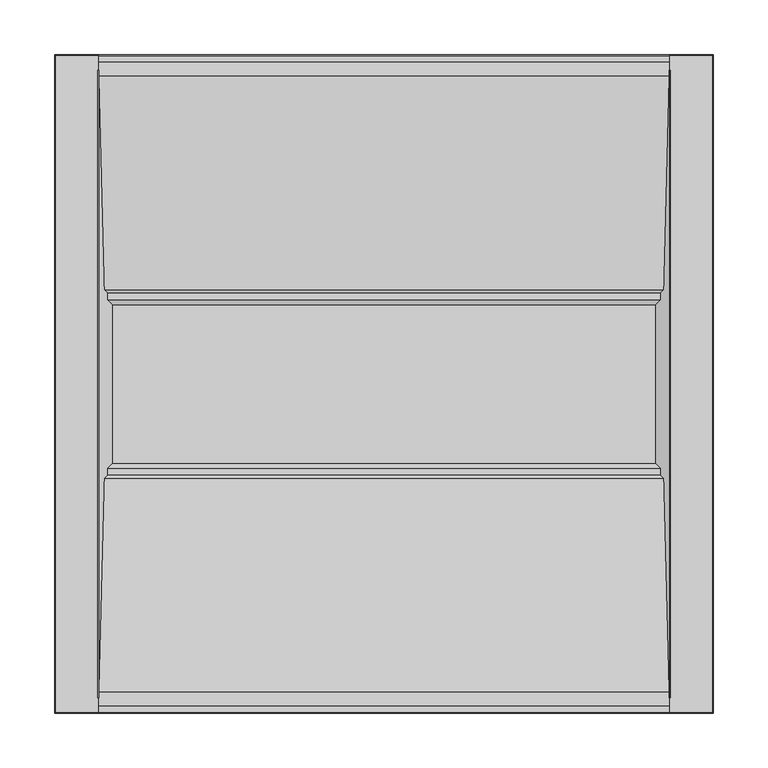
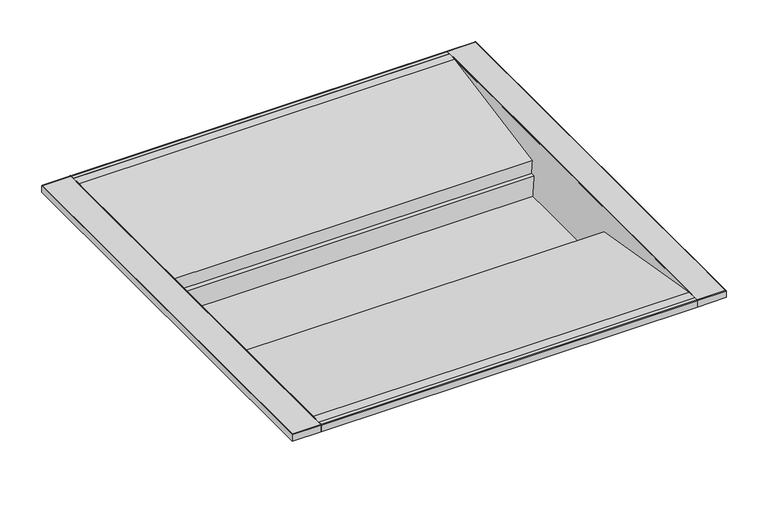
"""IFC4 building model written with IfcOpenShell, lengths in millimetres: light fixture geometry."""

from ifc_helpers import new_model, si_unit, frame, origin, place, context, project, spatial, circle_curve, ellipse_curve, faceted_brep, source, transform, mapped, element, save
from ifc_brep_helpers import plane_surface, cylinder_surface, advanced_brep


def light_fixture_8b8c7958(model_context):
    return source(origin(), model_context, "Body", "SolidModel", [
        advanced_brep(
        [(261.0, 298.6700005, -0.79375), (261.0, 304.2262505, -0.79375), (261.0, 304.2262505, -10.0), (261.0, 305.0200005, -10.0), (261.0, 305.0200005, -0.8929688), (261.0, 304.1270317, 0.0), (261.0, 298.6700005, 0.0), (-261.0, 298.6700005, -0.79375), (-261.0, 298.6700005, 0.0), (-261.0, 304.1270317, 0.0), (-261.0, 305.0200005, -0.8929688), (-261.0, 305.0200005, -10.0), (-261.0, 304.2262505, -10.0), (-261.0, 304.2262505, -0.79375), (-241.0, 304.2262505, -10.0), (-241.0, 304.2262505, -9.20625), (241.0, 304.2262505, -9.20625), (241.0, 304.2262505, -10.0), (241.0, 298.1950005, -10.0), (237.825, 295.0200005, -10.0), (-237.825, 295.0200005, -10.0), (-241.0, 298.1950005, -10.0), (-241.0, 298.1950005, -9.20625), (-237.825, 295.0200005, -9.20625), (237.825, 295.0200005, -9.20625), (241.0, 298.1950005, -9.20625)],
        [
            (0, 1),
            (1, 2),
            (2, 3),
            (3, 4),
            (4, 5, circle_curve(frame((261.0, 304.1270317, -0.8929688), z_axis=(1.0, 0.0, 0.0), x_axis=(0.0, 1.0, 0.0)), 0.8929688)),
            (5, 6),
            (6, 0),
            (7, 8),
            (8, 9),
            (9, 10, circle_curve(frame((-261.0, 304.1270317, -0.8929688), z_axis=(-1.0, 0.0, 0.0), x_axis=(0.0, 1.0, 0.0)), 0.8929688)),
            (10, 11),
            (11, 12),
            (12, 13),
            (13, 7),
            (0, 7),
            (13, 1),
            (12, 14),
            (14, 15),
            (15, 16),
            (16, 17),
            (17, 2),
            (17, 18),
            (18, 19, circle_curve(frame((237.825, 298.1950005, -10.0), z_axis=(0.0, 0.0, -1.0), x_axis=(1.0, 0.0, 0.0)), 3.175)),
            (19, 20),
            (20, 21, circle_curve(frame((-237.825, 298.1950005, -10.0), z_axis=(0.0, 0.0, -1.0), x_axis=(1.0, 0.0, 0.0)), 3.175)),
            (21, 14),
            (11, 3),
            (10, 4),
            (9, 5),
            (8, 6),
            (22, 23, circle_curve(frame((-237.825, 298.1950005, -9.20625), z_axis=(0.0, 0.0, 1.0), x_axis=(1.0, 0.0, 0.0)), 3.175)),
            (23, 24),
            (24, 25, circle_curve(frame((237.825, 298.1950005, -9.20625), z_axis=(0.0, 0.0, 1.0), x_axis=(1.0, 0.0, 0.0)), 3.175)),
            (25, 16),
            (15, 22),
            (19, 24),
            (23, 20),
            (25, 18),
            (21, 22),
        ],
        [
            plane_surface(frame((261.0, 304.2262505, -0.79375), z_axis=(1.0, 0.0, 0.0), x_axis=(0.0, 1.0, 0.0))),
            plane_surface(frame((-261.0, 304.2262505, -0.79375), z_axis=(-1.0, 0.0, 0.0), x_axis=(0.0, -1.0, 0.0))),
            plane_surface(frame((261.0, 298.6700005, -0.79375), z_axis=(0.0, 0.0, -1.0), x_axis=(-1.0, 0.0, 0.0))),
            plane_surface(frame((261.0, 304.2262505, -0.79375), z_axis=(0.0, -1.0, 0.0), x_axis=(-1.0, 0.0, 0.0))),
            plane_surface(frame((261.0, 304.2262505, -10.0), z_axis=(0.0, 0.0, -1.0), x_axis=(-1.0, 0.0, 0.0))),
            plane_surface(frame((261.0, 305.0200005, -10.0), z_axis=(0.0, 1.0, 0.0), x_axis=(-1.0, 0.0, 0.0))),
            cylinder_surface(frame((-261.0, 304.1270317, -0.8929688), z_axis=(1.0, 0.0, 0.0), x_axis=(0.0, 1.0, 0.0)), 0.8929688),
            plane_surface(frame((261.0, 304.1270317, 0.0), z_axis=(0.0, 0.0, 1.0), x_axis=(-1.0, 0.0, 0.0))),
            plane_surface(frame((261.0, 298.6700005, 0.0), z_axis=(0.0, -1.0, 0.0), x_axis=(-1.0, 0.0, 0.0))),
            plane_surface(frame((-234.65, 298.1950005, -9.20625), z_axis=(0.0, 0.0, 1.0), x_axis=(0.0, 1.0, 0.0))),
            plane_surface(frame((-237.825, 295.0200005, -9.20625), z_axis=(0.0, -1.0, 0.0), x_axis=(0.0, 0.0, -1.0))),
            plane_surface(frame((241.0, 298.1950005, -9.20625), z_axis=(1.0, 0.0, 0.0), x_axis=(0.0, 0.0, -1.0))),
            plane_surface(frame((-241.0, 305.0200005, -9.20625), z_axis=(-1.0, 0.0, 0.0), x_axis=(0.0, 0.0, -1.0))),
            cylinder_surface(frame((-237.825, 298.1950005, -10.0), z_axis=(0.0, 0.0, 1.0), x_axis=(1.0, 0.0, 0.0)), 3.175),
            cylinder_surface(frame((237.825, 298.1950005, -10.0), z_axis=(0.0, 0.0, 1.0), x_axis=(1.0, 0.0, 0.0)), 3.175),
        ],
        [
            (0, [[1, 2, 3, 4, 5, 6, 7]]),
            (1, [[8, 9, 10, 11, 12, 13, 14]]),
            (2, [[-1, 15, -14, 16]]),
            (3, [[-2, -16, -13, 17, 18, 19, 20, 21]]),
            (4, [[-3, -21, 22, 23, 24, 25, 26, -17, -12, 27]]),
            (5, [[-4, -27, -11, 28]]),
            (6, [[-5, -28, -10, 29]]),
            (7, [[-6, -29, -9, 30]]),
            (8, [[-7, -30, -8, -15]]),
            (9, [[31, 32, 33, 34, -19, 35]]),
            (10, [[-24, 36, -32, 37]]),
            (11, [[38, -22, -20, -34]]),
            (12, [[39, -35, -18, -26]]),
            (13, [[-25, -37, -31, -39]]),
            (14, [[-23, -38, -33, -36]]),
        ],
    ),
        advanced_brep(
        [(261.0, -291.5823433, -0.79375), (261.0, -291.5823433, 0.0), (261.0, -297.0393745, 0.0), (261.0, -297.9323433, -0.8929688), (261.0, -297.9323433, -10.0), (261.0, -297.1385933, -10.0), (261.0, -297.1385933, -0.79375), (-261.0, -291.5823433, -0.79375), (-261.0, -297.1385933, -0.79375), (-261.0, -297.1385933, -10.0), (-261.0, -297.9323433, -10.0), (-261.0, -297.9323433, -0.8929688), (-261.0, -297.0393745, 0.0), (-261.0, -291.5823433, 0.0), (-241.0, -291.1073433, -10.0), (-237.825, -287.9323433, -10.0), (237.825, -287.9323433, -10.0), (241.0, -291.1073433, -10.0), (241.0, -297.1385933, -10.0), (-241.0, -297.1385933, -10.0), (241.0, -297.1385933, -9.20625), (-241.0, -297.1385933, -9.20625), (241.0, -291.1073433, -9.20625), (237.825, -287.9323433, -9.20625), (-237.825, -287.9323433, -9.20625), (-241.0, -291.1073433, -9.20625)],
        [
            (0, 1),
            (1, 2),
            (2, 3, circle_curve(frame((261.0, -297.0393745, -0.8929688), z_axis=(1.0, 0.0, 0.0), x_axis=(0.0, 1.0, 0.0)), 0.8929688)),
            (3, 4),
            (4, 5),
            (5, 6),
            (6, 0),
            (7, 8),
            (8, 9),
            (9, 10),
            (10, 11),
            (11, 12, circle_curve(frame((-261.0, -297.0393745, -0.8929688), z_axis=(-1.0, 0.0, 0.0), x_axis=(0.0, 1.0, 0.0)), 0.8929688)),
            (12, 13),
            (13, 7),
            (14, 15, circle_curve(frame((-237.825, -291.1073433, -10.0), z_axis=(0.0, 0.0, -1.0), x_axis=(1.0, 0.0, 0.0)), 3.175)),
            (15, 16),
            (16, 17, circle_curve(frame((237.825, -291.1073433, -10.0), z_axis=(0.0, 0.0, -1.0), x_axis=(1.0, 0.0, 0.0)), 3.175)),
            (17, 18),
            (18, 5),
            (4, 10),
            (9, 19),
            (19, 14),
            (0, 7),
            (13, 1),
            (12, 2),
            (11, 3),
            (18, 20),
            (20, 21),
            (21, 19),
            (8, 6),
            (22, 23, circle_curve(frame((237.825, -291.1073433, -9.20625), z_axis=(0.0, 0.0, 1.0), x_axis=(1.0, 0.0, 0.0)), 3.175)),
            (23, 24),
            (24, 25, circle_curve(frame((-237.825, -291.1073433, -9.20625), z_axis=(0.0, 0.0, 1.0), x_axis=(1.0, 0.0, 0.0)), 3.175)),
            (25, 21),
            (20, 22),
            (25, 14),
            (17, 22),
            (16, 23),
            (15, 24),
        ],
        [
            plane_surface(frame((261.0, 304.2262505, -0.79375), z_axis=(1.0, 0.0, 0.0), x_axis=(0.0, 1.0, 0.0))),
            plane_surface(frame((-261.0, 304.2262505, -0.79375), z_axis=(-1.0, 0.0, 0.0), x_axis=(0.0, -1.0, 0.0))),
            plane_surface(frame((261.0, 304.2262505, -10.0), z_axis=(0.0, 0.0, -1.0), x_axis=(-1.0, 0.0, 0.0))),
            plane_surface(frame((261.0, -291.5823433, -0.79375), z_axis=(0.0, 1.0, 0.0), x_axis=(-1.0, 0.0, 0.0))),
            plane_surface(frame((261.0, -291.5823433, 0.0), z_axis=(0.0, 0.0, 1.0), x_axis=(-1.0, 0.0, 0.0))),
            cylinder_surface(frame((0.0, -297.0393745, -0.8929688), z_axis=(1.0, 0.0, 0.0), x_axis=(0.0, 1.0, 0.0)), 0.8929688),
            plane_surface(frame((261.0, -297.9323433, -0.8929688), z_axis=(0.0, -1.0, 0.0), x_axis=(-1.0, 0.0, 0.0))),
            plane_surface(frame((261.0, -297.1385933, -10.0), z_axis=(0.0, 1.0, 0.0), x_axis=(-1.0, 0.0, 0.0))),
            plane_surface(frame((261.0, -297.1385933, -0.79375), z_axis=(0.0, 0.0, -1.0), x_axis=(-1.0, 0.0, 0.0))),
            plane_surface(frame((-234.65, 298.1950005, -9.20625), z_axis=(0.0, 0.0, 1.0), x_axis=(0.0, 1.0, 0.0))),
            plane_surface(frame((-241.0, -291.1073433, -9.20625), z_axis=(-1.0, 0.0, 0.0), x_axis=(0.0, 0.0, -1.0))),
            plane_surface(frame((241.0, -297.9323433, -9.20625), z_axis=(1.0, 0.0, 0.0), x_axis=(0.0, 0.0, -1.0))),
            cylinder_surface(frame((237.825, -291.1073433, 0.0), z_axis=(0.0, 0.0, 1.0), x_axis=(1.0, 0.0, 0.0)), 3.175),
            plane_surface(frame((237.825, -287.9323433, -9.20625), z_axis=(0.0, 1.0, 0.0), x_axis=(0.0, 0.0, -1.0))),
            cylinder_surface(frame((-237.825, -291.1073433, 0.0), z_axis=(0.0, 0.0, 1.0), x_axis=(1.0, 0.0, 0.0)), 3.175),
        ],
        [
            (0, [[1, 2, 3, 4, 5, 6, 7]]),
            (1, [[8, 9, 10, 11, 12, 13, 14]]),
            (2, [[15, 16, 17, 18, 19, -5, 20, -10, 21, 22]]),
            (3, [[-1, 23, -14, 24]]),
            (4, [[-2, -24, -13, 25]]),
            (5, [[-3, -25, -12, 26]]),
            (6, [[-20, -4, -26, -11]]),
            (7, [[-6, -19, 27, 28, 29, -21, -9, 30]]),
            (8, [[-7, -30, -8, -23]]),
            (9, [[31, 32, 33, 34, -28, 35]]),
            (10, [[36, -22, -29, -34]]),
            (11, [[37, -35, -27, -18]]),
            (12, [[-17, 38, -31, -37]]),
            (13, [[-16, 39, -32, -38]]),
            (14, [[-15, -36, -33, -39]]),
        ],
    ),
        advanced_brep(
        [(-261.0009004, -283.5477848, 0.0), (-261.0009004, 290.635442, 0.0), (-261.8068952, 290.635442, 0.0), (-261.8068952, -283.5477848, 0.0), (-256.7455898, 90.4756735, -28.7040897), (-253.9085485, 87.6386322, -44.79375), (-253.9085485, 81.2943654, -44.79375), (-249.3593715, 76.7451884, -70.5934151), (-249.3593715, -69.6575312, -70.5934151), (-253.9085485, -74.2067082, -44.79375), (-253.9085485, -80.550975, -44.79375), (-256.7455898, -83.3880163, -28.7040897), (-248.4716746, 76.6138484, -71.3382812), (-248.4716746, -69.5261912, -71.3382812), (-238.9038114, 76.6138484, -71.3382812), (-238.9038114, -69.5261912, -71.3382812), (-238.9038114, 76.7538079, -70.5445312), (-238.9038114, -69.6661507, -70.5445312), (-248.5619962, 76.7538079, -70.5445312), (-248.5619962, -69.6661507, -70.5445312), (-255.9395949, -83.3880163, -28.7040897), (-253.1025537, -80.550975, -44.79375), (-253.1025537, -74.2067082, -44.79375), (-253.1025537, 81.2943654, -44.79375), (-253.1025537, 87.6386322, -44.79375), (-255.9395949, 90.4756735, -28.7040897)],
        [
            (0, 1),
            (1, 2),
            (2, 3),
            (3, 0),
            (2, 4),
            (4, 5),
            (5, 6),
            (6, 7),
            (7, 8),
            (8, 9),
            (9, 10),
            (10, 11),
            (11, 3),
            (7, 12, ellipse_curve(frame((-248.4716746, 76.772788, -70.4368902), z_axis=(0.0, -0.9848077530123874, 0.17364817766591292), x_axis=(0.0, -0.17364817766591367, -0.9848077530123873)), 0.9152965, 0.9013911)),
            (12, 13),
            (13, 8, ellipse_curve(frame((-248.4716746, -69.6851307, -70.4368902), z_axis=(0.0, 0.9848077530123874, 0.17364817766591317), x_axis=(0.0, -0.17364817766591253, 0.9848077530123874)), 0.9152965, 0.9013911)),
            (12, 14),
            (14, 15),
            (15, 13),
            (14, 16),
            (16, 17),
            (17, 15),
            (16, 18),
            (18, 19),
            (19, 17),
            (0, 20),
            (20, 21),
            (21, 22),
            (22, 19),
            (18, 23),
            (23, 24),
            (24, 25),
            (25, 1),
            (6, 23),
            (25, 4),
            (24, 5),
            (22, 9),
            (21, 10),
            (20, 11),
        ],
        [
            plane_surface(frame((-261.0009004, -297.9323433, 0.0), z_axis=(0.0, 0.0, 1.0), x_axis=(0.0, 1.0, 0.0))),
            plane_surface(frame((-261.8068952, -297.9323433, 0.0), z_axis=(-0.9848077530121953, 0.0, -0.17364817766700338), x_axis=(0.0, 1.0, 0.0))),
            cylinder_surface(frame((-248.4716746, 305.0200005, -70.4368902), z_axis=(0.0, -1.0, 0.0), x_axis=(1.0, 0.0, 0.0)), 0.9013911),
            plane_surface(frame((-248.4716746, -297.9323433, -71.3382812), z_axis=(0.0, 0.0, -1.0), x_axis=(0.0, 1.0, 0.0))),
            plane_surface(frame((-238.9038114, -297.9323433, -71.3382812), z_axis=(1.0, 0.0, 0.0), x_axis=(0.0, 1.0, 0.0))),
            plane_surface(frame((-238.9038114, -297.9323433, -70.5445312), z_axis=(0.0, 0.0, 1.0), x_axis=(0.0, 1.0, 0.0))),
            plane_surface(frame((-248.5619962, -297.9323433, -70.5445312), z_axis=(0.9848077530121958, 0.0, 0.17364817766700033), x_axis=(0.0, 1.0, 0.0))),
            plane_surface(frame((301.4761719, 81.2943654, -44.79375), z_axis=(0.0, 0.9848077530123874, -0.17364817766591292), x_axis=(-1.0, 0.0, 0.0))),
            plane_surface(frame((301.4761719, 290.635442, 0.0), z_axis=(0.0, 0.14195366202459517, -0.9898733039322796), x_axis=(-1.0, 0.0, 0.0))),
            plane_surface(frame((301.4761719, 90.4756735, -28.7040897), z_axis=(0.0, 0.9848077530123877, -0.1736481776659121), x_axis=(-1.0, 0.0, 0.0))),
            plane_surface(frame((301.4761719, 87.6386322, -44.79375), z_axis=(0.0, 1.005437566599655e-12, -1.0), x_axis=(-1.0, 0.0, 0.0))),
            plane_surface(frame((301.4761719, -69.5261912, -71.3382813), z_axis=(0.0, -0.9848077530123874, -0.17364817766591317), x_axis=(-1.0, 0.0, 0.0))),
            plane_surface(frame((301.4761719, -74.2067082, -44.79375), z_axis=(0.0, -1.0054375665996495e-12, -1.0), x_axis=(-1.0, 0.0, 0.0))),
            plane_surface(frame((301.4761719, -80.550975, -44.79375), z_axis=(0.0, -0.9848077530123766, -0.17364817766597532), x_axis=(-1.0, 0.0, 0.0))),
            plane_surface(frame((301.4761719, -83.3880163, -28.7040897), z_axis=(0.0, -0.14195366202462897, -0.9898733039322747), x_axis=(-1.0, 0.0, 0.0))),
        ],
        [
            (0, [[1, 2, 3, 4]]),
            (1, [[-3, 5, 6, 7, 8, 9, 10, 11, 12, 13]]),
            (2, [[-9, 14, 15, 16]]),
            (3, [[-15, 17, 18, 19]]),
            (4, [[-18, 20, 21, 22]]),
            (5, [[-21, 23, 24, 25]]),
            (6, [[-1, 26, 27, 28, 29, -24, 30, 31, 32, 33]]),
            (7, [[34, -30, -23, -20, -17, -14, -8]]),
            (8, [[35, -5, -2, -33]]),
            (9, [[-35, -32, 36, -6]]),
            (10, [[-34, -7, -36, -31]]),
            (11, [[37, -10, -16, -19, -22, -25, -29]]),
            (12, [[-37, -28, 38, -11]]),
            (13, [[-38, -27, 39, -12]]),
            (14, [[-39, -26, -4, -13]]),
        ],
    ),
        advanced_brep(
        [(261.0009004, -283.5477848, 0.0), (261.0009004, 290.635442, 0.0), (255.9395949, 90.4756735, -28.7040897), (253.1025537, 87.6386322, -44.79375), (253.1025537, 81.2943654, -44.79375), (248.5619962, 76.7538079, -70.5445312), (248.5619962, -69.6661507, -70.5445312), (253.1025537, -74.2067082, -44.79375), (253.1025537, -80.550975, -44.79375), (255.9395949, -83.3880163, -28.7040897), (238.9038114, 76.7538079, -70.5445312), (238.9038114, -69.6661507, -70.5445312), (238.9038114, 76.6138484, -71.3382812), (238.9038114, -69.5261912, -71.3382812), (248.4716746, 76.6138484, -71.3382812), (248.4716746, -69.5261912, -71.3382812), (249.3593715, 76.7451884, -70.5934151), (249.3593715, -69.6575312, -70.5934151), (253.9085486, 81.2943654, -44.79375), (253.9085486, 87.6386322, -44.79375), (256.7455898, 90.4756735, -28.7040897), (261.8068952, 290.635442, 0.0), (261.8068952, -283.5477848, 0.0), (256.7455898, -83.3880163, -28.7040897), (253.9085486, -80.550975, -44.79375), (253.9085486, -74.2067082, -44.79375)],
        [
            (0, 1),
            (1, 2),
            (2, 3),
            (3, 4),
            (4, 5),
            (5, 6),
            (6, 7),
            (7, 8),
            (8, 9),
            (9, 0),
            (5, 10),
            (10, 11),
            (11, 6),
            (10, 12),
            (12, 13),
            (13, 11),
            (12, 14),
            (14, 15),
            (15, 13),
            (14, 16, ellipse_curve(frame((248.4716746, 76.772788, -70.4368902), z_axis=(0.0, -0.9848077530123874, 0.17364817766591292), x_axis=(0.0, -0.17364817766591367, -0.9848077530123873)), 0.9152965, 0.9013911)),
            (16, 17),
            (17, 15, ellipse_curve(frame((248.4716746, -69.6851307, -70.4368902), z_axis=(0.0, 0.9848077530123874, 0.17364817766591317), x_axis=(0.0, -0.17364817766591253, 0.9848077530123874)), 0.9152965, 0.9013911)),
            (16, 18),
            (18, 19),
            (19, 20),
            (20, 21),
            (21, 22),
            (22, 23),
            (23, 24),
            (24, 25),
            (25, 17),
            (0, 22),
            (21, 1),
            (4, 18),
            (20, 2),
            (19, 3),
            (25, 7),
            (24, 8),
            (23, 9),
        ],
        [
            plane_surface(frame((261.0009004, -297.9323433, 0.0), z_axis=(-0.984807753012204, 0.0, 0.1736481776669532), x_axis=(0.0, 1.0, 0.0))),
            plane_surface(frame((248.5619962, -297.9323433, -70.5445312), z_axis=(0.0, 0.0, 1.0), x_axis=(0.0, 1.0, 0.0))),
            plane_surface(frame((238.9038114, -297.9323433, -70.5445312), z_axis=(-1.0, 0.0, 0.0), x_axis=(0.0, 1.0, 0.0))),
            plane_surface(frame((238.9038114, -297.9323433, -71.3382812), z_axis=(0.0, 0.0, -1.0), x_axis=(0.0, 1.0, 0.0))),
            cylinder_surface(frame((248.4716746, 3.5438286, -70.4368902), z_axis=(0.0, -1.0, 0.0), x_axis=(1.0, 0.0, 0.0)), 0.9013911),
            plane_surface(frame((249.3593715, -297.9323433, -70.5934151), z_axis=(0.9848077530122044, 0.0, -0.17364817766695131), x_axis=(0.0, 1.0, 0.0))),
            plane_surface(frame((261.8068952, -297.9323433, 0.0), z_axis=(0.0, 0.0, 1.0), x_axis=(0.0, 1.0, 0.0))),
            plane_surface(frame((301.4761719, 81.2943654, -44.79375), z_axis=(0.0, 0.9848077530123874, -0.17364817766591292), x_axis=(-1.0, 0.0, 0.0))),
            plane_surface(frame((301.4761719, 290.635442, 0.0), z_axis=(0.0, 0.14195366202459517, -0.9898733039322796), x_axis=(-1.0, 0.0, 0.0))),
            plane_surface(frame((301.4761719, 90.4756735, -28.7040897), z_axis=(0.0, 0.9848077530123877, -0.1736481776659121), x_axis=(-1.0, 0.0, 0.0))),
            plane_surface(frame((301.4761719, 87.6386322, -44.79375), z_axis=(0.0, 1.005437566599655e-12, -1.0), x_axis=(-1.0, 0.0, 0.0))),
            plane_surface(frame((301.4761719, -69.5261912, -71.3382813), z_axis=(0.0, -0.9848077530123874, -0.17364817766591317), x_axis=(-1.0, 0.0, 0.0))),
            plane_surface(frame((301.4761719, -74.2067082, -44.79375), z_axis=(0.0, -1.0054375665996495e-12, -1.0), x_axis=(-1.0, 0.0, 0.0))),
            plane_surface(frame((301.4761719, -80.550975, -44.79375), z_axis=(0.0, -0.9848077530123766, -0.17364817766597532), x_axis=(-1.0, 0.0, 0.0))),
            plane_surface(frame((301.4761719, -83.3880163, -28.7040897), z_axis=(0.0, -0.14195366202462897, -0.9898733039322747), x_axis=(-1.0, 0.0, 0.0))),
        ],
        [
            (0, [[1, 2, 3, 4, 5, 6, 7, 8, 9, 10]]),
            (1, [[-6, 11, 12, 13]]),
            (2, [[-12, 14, 15, 16]]),
            (3, [[-15, 17, 18, 19]]),
            (4, [[-18, 20, 21, 22]]),
            (5, [[-21, 23, 24, 25, 26, 27, 28, 29, 30, 31]]),
            (6, [[-1, 32, -27, 33]]),
            (7, [[34, -23, -20, -17, -14, -11, -5]]),
            (8, [[35, -2, -33, -26]]),
            (9, [[-35, -25, 36, -3]]),
            (10, [[-34, -4, -36, -24]]),
            (11, [[37, -7, -13, -16, -19, -22, -31]]),
            (12, [[-37, -30, 38, -8]]),
            (13, [[-38, -29, 39, -9]]),
            (14, [[-39, -28, -32, -10]]),
        ],
    ),
        faceted_brep([(261.0009004, 285.0438286, 0.0), (-261.0009004, 285.0438286, 0.0), (-256.0637449, 89.7938286, -28.0), (256.0637449, 89.7938286, -28.0), (-253.2425132, 86.9725969, -44.0), (253.2425132, 86.9725969, -44.0), (-253.2425132, 80.6283301, -44.0), (253.2425132, 80.6283301, -44.0), (-248.7019557, 76.0877726, -69.7507813), (248.7019557, 76.0877726, -69.7507813), (-248.7019557, -69.0001154, -69.7507813), (248.7019557, -69.0001154, -69.7507813), (-253.2425132, -73.5406729, -44.0), (253.2425132, -73.5406729, -44.0), (-253.2425132, -79.8849397, -44.0), (253.2425132, -79.8849397, -44.0), (-256.0637449, -82.7061714, -28.0), (256.0637449, -82.7061714, -28.0), (-261.0009004, -277.9561714, 0.0), (261.0009004, -277.9561714, 0.0), (-261.0009004, -291.5823433, 0.0), (261.0009004, -291.5823433, 0.0), (-260.8609408, -291.5823433, -0.79375), (260.8609408, -291.5823433, -0.79375), (-260.8609408, -278.012796, -0.79375), (260.8609408, -278.012796, -0.79375), (-255.9395949, -83.3880163, -28.7040897), (255.9395949, -83.3880163, -28.7040897), (-253.1025537, -80.550975, -44.79375), (253.1025537, -80.550975, -44.79375), (-253.1025537, -74.2067082, -44.79375), (253.1025537, -74.2067082, -44.79375), (-248.5619962, -69.6661507, -70.5445313), (248.5619962, -69.6661507, -70.5445313), (-248.5619962, 76.7538079, -70.5445313), (248.5619962, 76.7538079, -70.5445313), (-253.1025537, 81.2943654, -44.79375), (253.1025537, 81.2943654, -44.79375), (-253.1025537, 87.6386322, -44.79375), (253.1025537, 87.6386322, -44.79375), (-255.9395949, 90.4756735, -28.7040897), (255.9395949, 90.4756735, -28.7040897), (-260.8609408, 285.1004532, -0.79375), (260.8609408, 285.1004532, -0.79375), (-260.8609408, 298.6700005, -0.79375), (260.8609408, 298.6700005, -0.79375), (-261.0009004, 298.6700005, 0.0), (261.0009004, 298.6700005, 0.0)], [[[0, 1, 2, 3]], [[3, 2, 4, 5]], [[5, 4, 6, 7]], [[7, 6, 8, 9]], [[9, 8, 10, 11]], [[11, 10, 12, 13]], [[13, 12, 14, 15]], [[15, 14, 16, 17]], [[17, 16, 18, 19]], [[19, 18, 20, 21]], [[21, 20, 22, 23]], [[23, 22, 24, 25]], [[25, 24, 26, 27]], [[27, 26, 28, 29]], [[29, 28, 30, 31]], [[31, 30, 32, 33]], [[33, 32, 34, 35]], [[35, 34, 36, 37]], [[37, 36, 38, 39]], [[39, 38, 40, 41]], [[41, 40, 42, 43]], [[43, 42, 44, 45]], [[45, 44, 46, 47]], [[1, 0, 47, 46]], [[2, 1, 46, 44, 42, 40, 38, 36, 34, 32, 30, 28, 26, 24, 22, 20, 18, 16, 14, 12, 10, 8, 6, 4]], [[0, 3, 5, 7, 9, 11, 13, 15, 17, 19, 21, 23, 25, 27, 29, 31, 33, 35, 37, 39, 41, 43, 45, 47]]]),
        advanced_brep(
        [(-261.0, 304.2262505, -0.79375), (-261.0, 304.2262505, -10.0), (-261.0, 305.0200005, -10.0), (-261.0, 305.0200005, -0.8929688), (-261.0, 304.1270317, 0.0), (-261.0, -297.0393745, 0.0), (-261.0, -297.9323433, -0.8929688), (-261.0, -297.9323433, -10.0), (-261.0, -297.1385933, -10.0), (-261.0, -297.1385933, -0.79375), (-300.6824219, 304.2262505, -10.0), (-300.6824219, -297.1385933, -10.0), (-301.4761719, -297.9323433, -10.0), (-301.4761719, 305.0200005, -10.0), (-301.4761719, 305.0200005, -0.8929688), (-300.5832031, 304.1270317, 0.0), (-300.5832031, -297.0393745, 0.0), (-301.4761719, -297.9323433, -0.8929688), (-300.6824219, -297.1385933, -0.79375), (-300.6824219, 304.2262505, -0.79375)],
        [
            (0, 1),
            (1, 2),
            (2, 3),
            (3, 4, circle_curve(frame((-261.0, 304.1270317, -0.8929688), z_axis=(1.0, 0.0, 0.0), x_axis=(0.0, -1.0, 0.0)), 0.8929687)),
            (4, 5),
            (5, 6, circle_curve(frame((-261.0, -297.0393745, -0.8929688), z_axis=(1.0, 0.0, 0.0), x_axis=(0.0, 1.0, 0.0)), 0.8929688)),
            (6, 7),
            (7, 8),
            (8, 9),
            (9, 0),
            (1, 10),
            (10, 11),
            (11, 8),
            (7, 12),
            (12, 13),
            (13, 2),
            (13, 14),
            (14, 3),
            (4, 15),
            (15, 16),
            (16, 5),
            (12, 17),
            (17, 14),
            (6, 17),
            (9, 18),
            (18, 19),
            (19, 0),
            (19, 10),
            (14, 15, ellipse_curve(frame((-300.5832031, 304.1270317, -0.8929688), z_axis=(0.7071067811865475, 0.7071067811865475, 0.0), x_axis=(0.7071067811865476, -0.7071067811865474, 0.0)), 1.2628485, 0.8929688)),
            (18, 11),
            (17, 16, ellipse_curve(frame((-300.5832031, -297.0393745, -0.8929688), z_axis=(-0.7071067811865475, 0.7071067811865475, 0.0), x_axis=(0.7071067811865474, 0.7071067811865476, 0.0)), 1.2628485, 0.8929688)),
        ],
        [
            plane_surface(frame((-261.0, 305.0200005, 0.0), z_axis=(1.0, 0.0, 0.0), x_axis=(0.0, 0.0, 1.0))),
            plane_surface(frame((-261.0, 304.2262505, -10.0), z_axis=(0.0, 0.0, -1.0), x_axis=(-1.0, 0.0, 0.0))),
            plane_surface(frame((-261.0, 305.0200005, -10.0), z_axis=(0.0, 1.0, 0.0), x_axis=(-1.0, 0.0, 0.0))),
            plane_surface(frame((-261.0, 304.1270317, 0.0), z_axis=(0.0, 0.0, 1.0), x_axis=(-1.0, 0.0, 0.0))),
            plane_surface(frame((-301.4761719, 305.0200005, -10.0), z_axis=(-1.0, 0.0, 0.0), x_axis=(0.0, -1.0, 0.0))),
            plane_surface(frame((-301.4761719, -297.9323433, -10.0), z_axis=(0.0, -1.0, 0.0), x_axis=(1.0, 0.0, 0.0))),
            plane_surface(frame((-261.0, 301.8450005, -0.79375), z_axis=(0.0, 0.0, -1.0), x_axis=(-1.0, 0.0, 0.0))),
            plane_surface(frame((-261.0, 304.2262505, -0.79375), z_axis=(0.0, -1.0, 0.0), x_axis=(-1.0, 0.0, 0.0))),
            cylinder_surface(frame((-261.0, 304.1270317, -0.8929688), z_axis=(1.0, 0.0, 0.0), x_axis=(0.0, -1.0, 0.0)), 0.8929688),
            plane_surface(frame((-300.6824219, 304.2262505, -0.79375), z_axis=(1.0, 0.0, 0.0), x_axis=(0.0, -1.0, 0.0))),
            cylinder_surface(frame((-300.5832031, 305.0200005, -0.8929688), z_axis=(0.0, 1.0, 0.0), x_axis=(1.0, 0.0, 0.0)), 0.8929688),
            plane_surface(frame((-300.6824219, -297.1385933, -0.79375), z_axis=(0.0, 1.0, 0.0), x_axis=(1.0, 0.0, 0.0))),
            cylinder_surface(frame((-301.4761719, -297.0393745, -0.8929688), z_axis=(-1.0, 0.0, 0.0), x_axis=(0.0, 1.0, 0.0)), 0.8929688),
        ],
        [
            (0, [[1, 2, 3, 4, 5, 6, 7, 8, 9, 10]]),
            (1, [[-2, 11, 12, 13, -8, 14, 15, 16]]),
            (2, [[-3, -16, 17, 18]]),
            (3, [[19, 20, 21, -5]]),
            (4, [[-15, 22, 23, -17]]),
            (5, [[-14, -7, 24, -22]]),
            (6, [[25, 26, 27, -10]]),
            (7, [[-1, -27, 28, -11]]),
            (8, [[-4, -18, 29, -19]]),
            (9, [[-12, -28, -26, 30]]),
            (10, [[-20, -29, -23, 31]]),
            (11, [[-13, -30, -25, -9]]),
            (12, [[-21, -31, -24, -6]]),
        ],
    ),
        advanced_brep(
        [(261.0, -297.0393745, 0.0), (300.5832031, -297.0393745, 0.0), (300.5832031, 304.1270317, 0.0), (261.0, 304.1270317, 0.0), (261.0, 304.2262505, -0.79375), (300.6824219, 304.2262505, -0.79375), (300.6824219, -297.1385933, -0.79375), (261.0, -297.1385933, -0.79375), (261.0, 305.0200005, -0.8929688), (261.0, 305.0200005, -10.0), (261.0, 304.2262505, -10.0), (261.0, -297.1385933, -10.0), (261.0, -297.9323433, -10.0), (261.0, -297.9323433, -0.8929688), (301.4761719, 305.0200005, -10.0), (301.4761719, -297.9323433, -10.0), (300.6824219, -297.1385933, -10.0), (300.6824219, 304.2262505, -10.0), (301.4761719, 305.0200005, -0.8929688), (301.4761719, -297.9323433, -0.8929688)],
        [
            (0, 1),
            (1, 2),
            (2, 3),
            (3, 0),
            (4, 5),
            (5, 6),
            (6, 7),
            (7, 4),
            (3, 8, circle_curve(frame((261.0, 304.1270317, -0.8929688), z_axis=(-1.0, 0.0, 0.0), x_axis=(0.0, 1.0, 0.0)), 0.8929688)),
            (8, 9),
            (9, 10),
            (10, 4),
            (7, 11),
            (11, 12),
            (12, 13),
            (13, 0, circle_curve(frame((261.0, -297.0393745, -0.8929688), z_axis=(-1.0, 0.0, 0.0), x_axis=(0.0, -1.0, 0.0)), 0.8929687)),
            (9, 14),
            (14, 15),
            (15, 12),
            (11, 16),
            (16, 17),
            (17, 10),
            (8, 18),
            (18, 14),
            (18, 19),
            (19, 15),
            (19, 13),
            (17, 5),
            (2, 18, ellipse_curve(frame((300.5832031, 304.1270317, -0.8929688), z_axis=(-0.7071067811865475, 0.7071067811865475, 0.0), x_axis=(-0.7071067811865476, -0.7071067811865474, 0.0)), 1.2628485, 0.8929688)),
            (16, 6),
            (1, 19, ellipse_curve(frame((300.5832031, -297.0393745, -0.8929688), z_axis=(0.7071067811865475, 0.7071067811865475, 0.0), x_axis=(-0.7071067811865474, 0.7071067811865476, 0.0)), 1.2628485, 0.8929688)),
        ],
        [
            plane_surface(frame((-261.0, 304.1270317, 0.0), z_axis=(0.0, 0.0, 1.0), x_axis=(-1.0, 0.0, 0.0))),
            plane_surface(frame((-261.0, 301.8450005, -0.79375), z_axis=(0.0, 0.0, -1.0), x_axis=(-1.0, 0.0, 0.0))),
            plane_surface(frame((261.0, 301.8450005, 0.0), z_axis=(-1.0, 0.0, 0.0), x_axis=(0.0, 0.0, -1.0))),
            plane_surface(frame((261.0, 305.0200005, -10.0), z_axis=(0.0, 0.0, -1.0), x_axis=(1.0, 0.0, 0.0))),
            plane_surface(frame((261.0, 305.0200005, -0.8929688), z_axis=(0.0, 1.0, 0.0), x_axis=(1.0, 0.0, 0.0))),
            plane_surface(frame((301.4761719, 305.0200005, -0.8929688), z_axis=(1.0, 0.0, 0.0), x_axis=(0.0, -1.0, 0.0))),
            plane_surface(frame((301.4761719, -297.9323433, -0.8929688), z_axis=(0.0, -1.0, 0.0), x_axis=(-1.0, 0.0, 0.0))),
            plane_surface(frame((261.0, 304.2262505, -10.0), z_axis=(0.0, -1.0, 0.0), x_axis=(1.0, 0.0, 0.0))),
            cylinder_surface(frame((261.0, 304.1270317, -0.8929688), z_axis=(-1.0, 0.0, 0.0), x_axis=(0.0, 1.0, 0.0)), 0.8929688),
            plane_surface(frame((300.6824219, 304.2262505, -10.0), z_axis=(-1.0, 0.0, 0.0), x_axis=(0.0, -1.0, 0.0))),
            cylinder_surface(frame((300.5832031, 305.0200005, -0.8929688), z_axis=(0.0, 1.0, 0.0), x_axis=(1.0, 0.0, 0.0)), 0.8929688),
            plane_surface(frame((300.6824219, -297.1385933, -10.0), z_axis=(0.0, 1.0, 0.0), x_axis=(-1.0, 0.0, 0.0))),
            cylinder_surface(frame((301.4761719, -297.0393745, -0.8929688), z_axis=(1.0, 0.0, 0.0), x_axis=(0.0, -1.0, 0.0)), 0.8929688),
        ],
        [
            (0, [[1, 2, 3, 4]]),
            (1, [[5, 6, 7, 8]]),
            (2, [[-4, 9, 10, 11, 12, -8, 13, 14, 15, 16]]),
            (3, [[-11, 17, 18, 19, -14, 20, 21, 22]]),
            (4, [[-10, 23, 24, -17]]),
            (5, [[-18, -24, 25, 26]]),
            (6, [[-19, -26, 27, -15]]),
            (7, [[-12, -22, 28, -5]]),
            (8, [[-9, -3, 29, -23]]),
            (9, [[-21, 30, -6, -28]]),
            (10, [[-2, 31, -25, -29]]),
            (11, [[-20, -13, -7, -30]]),
            (12, [[-1, -16, -27, -31]]),
        ],
    ),
    ])


if __name__ == "__main__":
    model = new_model("IFC4")
    model_context = context("Model", 3, world=origin())
    ifc_project = project(units=[si_unit("LENGTHUNIT", "METRE", prefix="MILLI")], contexts=[model_context])
    site = spatial("IfcSite", under=ifc_project)
    building = spatial("IfcBuilding", under=site)
    placement = place(None, origin())
    light_fixture_shape = light_fixture_8b8c7958(model_context)
    element("IfcLightFixture", 1, at=placement, inside=building, context=model_context, shape_type="MappedRepresentation", body=[
        mapped(light_fixture_shape, transform((0.0, 0.0, 0.0), x_axis=(1.0, 0.0, 0.0), y_axis=(0.0, 1.0, 0.0), z_axis=(0.0, 0.0, 1.0))),
    ])
    save(model, "model.ifc")
